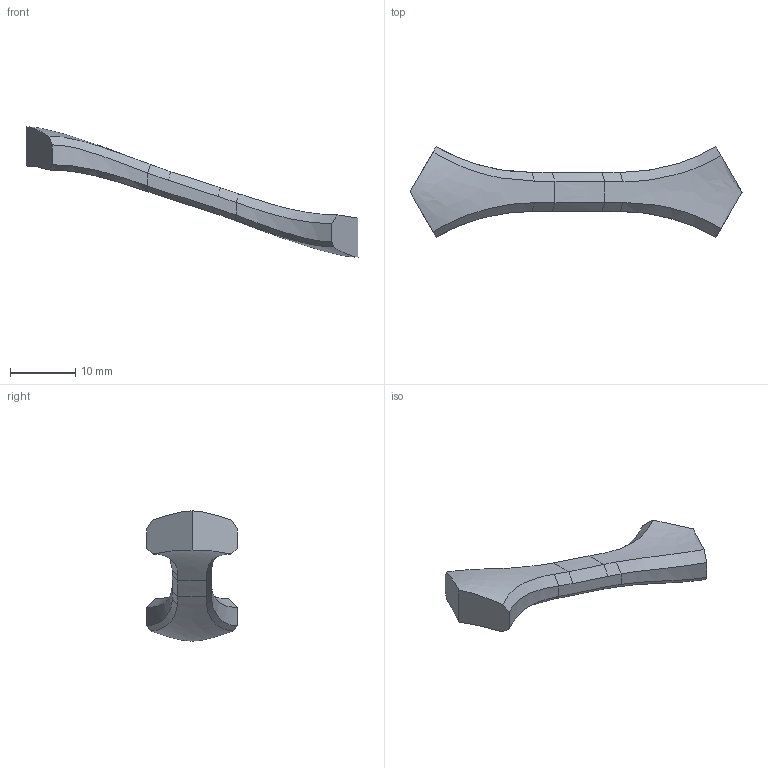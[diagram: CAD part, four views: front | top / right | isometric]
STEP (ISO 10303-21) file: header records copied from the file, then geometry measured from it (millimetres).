
FILE_DESCRIPTION(/* description */ ('STEP AP214'),/* implementation_level */ '2;1');
FILE_NAME(/* name */ '606386f4c42dd81595324d6e',/* time_stamp */ '2021-03-30T20:15:49+00:00',/* author */ (''),/* organization */ (''),/* preprocessor_version */ 'ST-DEVELOPER v18.1',/* originating_system */ ' ',/* authorisation */ ' ');
FILE_SCHEMA (('AUTOMOTIVE_DESIGN {1 0 10303 214 3 1 1}'));
Length unit declared in the file: metre
Products named in the file (1): Part 1
Bounding box: 50.91 x 13.86 x 19.98 mm (x, y, z)
Volume: 1746.7 mm3; surface area: 1267.2 mm2
Topology: 1 solids, 1 shells, 36 faces, 90 edges, 52 vertices
Faces by surface type: bspline 26, plane 6, cylinder 4
Entity records: 1795 total; most frequent: CARTESIAN_POINT 1172, ORIENTED_EDGE 172, EDGE_CURVE 86, B_SPLINE_CURVE_WITH_KNOTS 76, VERTEX_POINT 52, EDGE_LOOP 36, FACE_BOUND 36, ADVANCED_FACE 36
